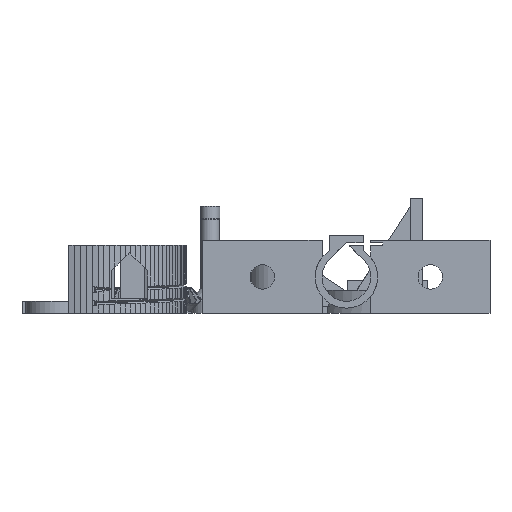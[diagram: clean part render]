
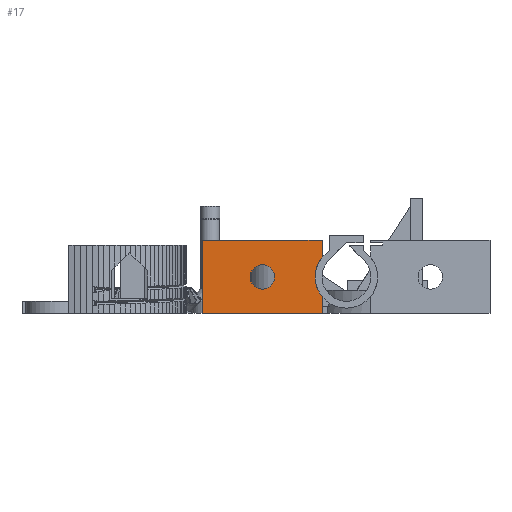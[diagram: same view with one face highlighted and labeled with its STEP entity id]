
A CAD part, left-side view. The second image highlights one B-rep face of the part: STEP entity #17.
In plain terms, the highlighted planar face has unit normal (-1, 0, 0).
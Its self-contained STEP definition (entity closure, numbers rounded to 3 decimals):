
#17 = ADVANCED_FACE('',(#18,#198),#32,.T.);
#18 = FACE_BOUND('',#19,.T.);
#19 = EDGE_LOOP('',(#20,#55,#83,#116,#144,#172));
#20 = ORIENTED_EDGE('',*,*,#21,.F.);
#21 = EDGE_CURVE('',#22,#24,#26,.T.);
#22 = VERTEX_POINT('',#23);
#23 = CARTESIAN_POINT('',(44.,82.,0.));
#24 = VERTEX_POINT('',#25);
#25 = CARTESIAN_POINT('',(44.,131.,0.));
#26 = SURFACE_CURVE('',#27,(#31,#43),.PCURVE_S1.);
#27 = LINE('',#28,#29);
#28 = CARTESIAN_POINT('',(44.,106.5,0.));
#29 = VECTOR('',#30,1.);
#30 = DIRECTION('',(0.,1.,0.));
#31 = PCURVE('',#32,#37);
#32 = PLANE('',#33);
#33 = AXIS2_PLACEMENT_3D('',#34,#35,#36);
#34 = CARTESIAN_POINT('',(44.,82.,0.));
#35 = DIRECTION('',(-1.,0.,0.));
#36 = DIRECTION('',(0.,1.,0.));
#37 = DEFINITIONAL_REPRESENTATION('',(#38),#42);
#38 = LINE('',#39,#40);
#39 = CARTESIAN_POINT('',(24.5,0.));
#40 = VECTOR('',#41,1.);
#41 = DIRECTION('',(1.,0.));
#42 = ( GEOMETRIC_REPRESENTATION_CONTEXT(2) 
PARAMETRIC_REPRESENTATION_CONTEXT() REPRESENTATION_CONTEXT('2D SPACE',''
  ) );
#43 = PCURVE('',#44,#49);
#44 = PLANE('',#45);
#45 = AXIS2_PLACEMENT_3D('',#46,#47,#48);
#46 = CARTESIAN_POINT('',(57.,106.5,0.));
#47 = DIRECTION('',(0.,0.,1.));
#48 = DIRECTION('',(1.,0.,0.));
#49 = DEFINITIONAL_REPRESENTATION('',(#50),#54);
#50 = LINE('',#51,#52);
#51 = CARTESIAN_POINT('',(-13.,0.));
#52 = VECTOR('',#53,1.);
#53 = DIRECTION('',(0.,1.));
#54 = ( GEOMETRIC_REPRESENTATION_CONTEXT(2) 
PARAMETRIC_REPRESENTATION_CONTEXT() REPRESENTATION_CONTEXT('2D SPACE',''
  ) );
#55 = ORIENTED_EDGE('',*,*,#56,.T.);
#56 = EDGE_CURVE('',#22,#57,#59,.T.);
#57 = VERTEX_POINT('',#58);
#58 = CARTESIAN_POINT('',(44.,82.,7.01));
#59 = SURFACE_CURVE('',#60,(#64,#71),.PCURVE_S1.);
#60 = LINE('',#61,#62);
#61 = CARTESIAN_POINT('',(44.,82.,0.));
#62 = VECTOR('',#63,1.);
#63 = DIRECTION('',(0.,0.,1.));
#64 = PCURVE('',#32,#65);
#65 = DEFINITIONAL_REPRESENTATION('',(#66),#70);
#66 = LINE('',#67,#68);
#67 = CARTESIAN_POINT('',(0.,0.));
#68 = VECTOR('',#69,1.);
#69 = DIRECTION('',(0.,-1.));
#70 = ( GEOMETRIC_REPRESENTATION_CONTEXT(2) 
PARAMETRIC_REPRESENTATION_CONTEXT() REPRESENTATION_CONTEXT('2D SPACE',''
  ) );
#71 = PCURVE('',#72,#77);
#72 = PLANE('',#73);
#73 = AXIS2_PLACEMENT_3D('',#74,#75,#76);
#74 = CARTESIAN_POINT('',(44.,82.,0.));
#75 = DIRECTION('',(0.,1.,0.));
#76 = DIRECTION('',(1.,0.,0.));
#77 = DEFINITIONAL_REPRESENTATION('',(#78),#82);
#78 = LINE('',#79,#80);
#79 = CARTESIAN_POINT('',(0.,0.));
#80 = VECTOR('',#81,1.);
#81 = DIRECTION('',(0.,-1.));
#82 = ( GEOMETRIC_REPRESENTATION_CONTEXT(2) 
PARAMETRIC_REPRESENTATION_CONTEXT() REPRESENTATION_CONTEXT('2D SPACE',''
  ) );
#83 = ORIENTED_EDGE('',*,*,#84,.T.);
#84 = EDGE_CURVE('',#57,#85,#87,.T.);
#85 = VERTEX_POINT('',#86);
#86 = CARTESIAN_POINT('',(44.,82.,22.99));
#87 = SURFACE_CURVE('',#88,(#93,#104),.PCURVE_S1.);
#88 = CIRCLE('',#89,12.8);
#89 = AXIS2_PLACEMENT_3D('',#90,#91,#92);
#90 = CARTESIAN_POINT('',(44.,72.,15.));
#91 = DIRECTION('',(1.,0.,0.));
#92 = DIRECTION('',(0.,-0.547,0.837));
#93 = PCURVE('',#32,#94);
#94 = DEFINITIONAL_REPRESENTATION('',(#95),#103);
#95 = ( BOUNDED_CURVE() B_SPLINE_CURVE(2,(#96,#97,#98,#99,#100,#101,#102
),.UNSPECIFIED.,.T.,.F.) B_SPLINE_CURVE_WITH_KNOTS((1,2,2,2,2,1),(
    -2.094,0.,2.094,4.189,6.283,
8.378),.UNSPECIFIED.) CURVE() GEOMETRIC_REPRESENTATION_ITEM() 
RATIONAL_B_SPLINE_CURVE((1.,0.5,1.,0.5,1.,0.5,1.)) REPRESENTATION_ITEM(
  '') );
#96 = CARTESIAN_POINT('',(-17.,-25.716));
#97 = CARTESIAN_POINT('',(-35.561,-13.592));
#98 = CARTESIAN_POINT('',(-15.781,-3.58));
#99 = CARTESIAN_POINT('',(4.,6.433));
#100 = CARTESIAN_POINT('',(2.781,-15.704));
#101 = CARTESIAN_POINT('',(1.561,-37.841));
#102 = CARTESIAN_POINT('',(-17.,-25.716));
#103 = ( GEOMETRIC_REPRESENTATION_CONTEXT(2) 
PARAMETRIC_REPRESENTATION_CONTEXT() REPRESENTATION_CONTEXT('2D SPACE',''
  ) );
#104 = PCURVE('',#105,#110);
#105 = CYLINDRICAL_SURFACE('',#106,12.8);
#106 = AXIS2_PLACEMENT_3D('',#107,#108,#109);
#107 = CARTESIAN_POINT('',(57.,72.,15.));
#108 = DIRECTION('',(1.,0.,0.));
#109 = DIRECTION('',(0.,-0.547,0.837));
#110 = DEFINITIONAL_REPRESENTATION('',(#111),#115);
#111 = LINE('',#112,#113);
#112 = CARTESIAN_POINT('',(0.,-13.));
#113 = VECTOR('',#114,1.);
#114 = DIRECTION('',(1.,0.));
#115 = ( GEOMETRIC_REPRESENTATION_CONTEXT(2) 
PARAMETRIC_REPRESENTATION_CONTEXT() REPRESENTATION_CONTEXT('2D SPACE',''
  ) );
#116 = ORIENTED_EDGE('',*,*,#117,.T.);
#117 = EDGE_CURVE('',#85,#118,#120,.T.);
#118 = VERTEX_POINT('',#119);
#119 = CARTESIAN_POINT('',(44.,82.,30.));
#120 = SURFACE_CURVE('',#121,(#125,#132),.PCURVE_S1.);
#121 = LINE('',#122,#123);
#122 = CARTESIAN_POINT('',(44.,82.,0.));
#123 = VECTOR('',#124,1.);
#124 = DIRECTION('',(0.,0.,1.));
#125 = PCURVE('',#32,#126);
#126 = DEFINITIONAL_REPRESENTATION('',(#127),#131);
#127 = LINE('',#128,#129);
#128 = CARTESIAN_POINT('',(0.,0.));
#129 = VECTOR('',#130,1.);
#130 = DIRECTION('',(0.,-1.));
#131 = ( GEOMETRIC_REPRESENTATION_CONTEXT(2) 
PARAMETRIC_REPRESENTATION_CONTEXT() REPRESENTATION_CONTEXT('2D SPACE',''
  ) );
#132 = PCURVE('',#133,#138);
#133 = PLANE('',#134);
#134 = AXIS2_PLACEMENT_3D('',#135,#136,#137);
#135 = CARTESIAN_POINT('',(44.,82.,0.));
#136 = DIRECTION('',(0.,1.,0.));
#137 = DIRECTION('',(1.,0.,0.));
#138 = DEFINITIONAL_REPRESENTATION('',(#139),#143);
#139 = LINE('',#140,#141);
#140 = CARTESIAN_POINT('',(0.,0.));
#141 = VECTOR('',#142,1.);
#142 = DIRECTION('',(0.,-1.));
#143 = ( GEOMETRIC_REPRESENTATION_CONTEXT(2) 
PARAMETRIC_REPRESENTATION_CONTEXT() REPRESENTATION_CONTEXT('2D SPACE',''
  ) );
#144 = ORIENTED_EDGE('',*,*,#145,.T.);
#145 = EDGE_CURVE('',#118,#146,#148,.T.);
#146 = VERTEX_POINT('',#147);
#147 = CARTESIAN_POINT('',(44.,131.,30.));
#148 = SURFACE_CURVE('',#149,(#153,#160),.PCURVE_S1.);
#149 = LINE('',#150,#151);
#150 = CARTESIAN_POINT('',(44.,106.5,30.));
#151 = VECTOR('',#152,1.);
#152 = DIRECTION('',(0.,1.,0.));
#153 = PCURVE('',#32,#154);
#154 = DEFINITIONAL_REPRESENTATION('',(#155),#159);
#155 = LINE('',#156,#157);
#156 = CARTESIAN_POINT('',(24.5,-30.));
#157 = VECTOR('',#158,1.);
#158 = DIRECTION('',(1.,0.));
#159 = ( GEOMETRIC_REPRESENTATION_CONTEXT(2) 
PARAMETRIC_REPRESENTATION_CONTEXT() REPRESENTATION_CONTEXT('2D SPACE',''
  ) );
#160 = PCURVE('',#161,#166);
#161 = PLANE('',#162);
#162 = AXIS2_PLACEMENT_3D('',#163,#164,#165);
#163 = CARTESIAN_POINT('',(57.,106.5,30.));
#164 = DIRECTION('',(0.,0.,1.));
#165 = DIRECTION('',(1.,0.,0.));
#166 = DEFINITIONAL_REPRESENTATION('',(#167),#171);
#167 = LINE('',#168,#169);
#168 = CARTESIAN_POINT('',(-13.,0.));
#169 = VECTOR('',#170,1.);
#170 = DIRECTION('',(0.,1.));
#171 = ( GEOMETRIC_REPRESENTATION_CONTEXT(2) 
PARAMETRIC_REPRESENTATION_CONTEXT() REPRESENTATION_CONTEXT('2D SPACE',''
  ) );
#172 = ORIENTED_EDGE('',*,*,#173,.F.);
#173 = EDGE_CURVE('',#24,#146,#174,.T.);
#174 = SURFACE_CURVE('',#175,(#179,#186),.PCURVE_S1.);
#175 = LINE('',#176,#177);
#176 = CARTESIAN_POINT('',(44.,131.,0.));
#177 = VECTOR('',#178,1.);
#178 = DIRECTION('',(0.,0.,1.));
#179 = PCURVE('',#32,#180);
#180 = DEFINITIONAL_REPRESENTATION('',(#181),#185);
#181 = LINE('',#182,#183);
#182 = CARTESIAN_POINT('',(49.,0.));
#183 = VECTOR('',#184,1.);
#184 = DIRECTION('',(0.,-1.));
#185 = ( GEOMETRIC_REPRESENTATION_CONTEXT(2) 
PARAMETRIC_REPRESENTATION_CONTEXT() REPRESENTATION_CONTEXT('2D SPACE',''
  ) );
#186 = PCURVE('',#187,#192);
#187 = PLANE('',#188);
#188 = AXIS2_PLACEMENT_3D('',#189,#190,#191);
#189 = CARTESIAN_POINT('',(44.,131.,0.));
#190 = DIRECTION('',(0.,1.,0.));
#191 = DIRECTION('',(1.,0.,0.));
#192 = DEFINITIONAL_REPRESENTATION('',(#193),#197);
#193 = LINE('',#194,#195);
#194 = CARTESIAN_POINT('',(0.,0.));
#195 = VECTOR('',#196,1.);
#196 = DIRECTION('',(0.,-1.));
#197 = ( GEOMETRIC_REPRESENTATION_CONTEXT(2) 
PARAMETRIC_REPRESENTATION_CONTEXT() REPRESENTATION_CONTEXT('2D SPACE',''
  ) );
#198 = FACE_BOUND('',#199,.T.);
#199 = EDGE_LOOP('',(#200));
#200 = ORIENTED_EDGE('',*,*,#201,.T.);
#201 = EDGE_CURVE('',#202,#202,#204,.T.);
#202 = VERTEX_POINT('',#203);
#203 = CARTESIAN_POINT('',(44.,111.5,15.));
#204 = SURFACE_CURVE('',#205,(#210,#221),.PCURVE_S1.);
#205 = CIRCLE('',#206,5.);
#206 = AXIS2_PLACEMENT_3D('',#207,#208,#209);
#207 = CARTESIAN_POINT('',(44.,106.5,15.));
#208 = DIRECTION('',(1.,0.,0.));
#209 = DIRECTION('',(0.,1.,0.));
#210 = PCURVE('',#32,#211);
#211 = DEFINITIONAL_REPRESENTATION('',(#212),#220);
#212 = ( BOUNDED_CURVE() B_SPLINE_CURVE(2,(#213,#214,#215,#216,#217,#218
,#219),.UNSPECIFIED.,.T.,.F.) B_SPLINE_CURVE_WITH_KNOTS((1,2,2,2,2,1),(
    -2.094,0.,2.094,4.189,6.283,
8.378),.UNSPECIFIED.) CURVE() GEOMETRIC_REPRESENTATION_ITEM() 
RATIONAL_B_SPLINE_CURVE((1.,0.5,1.,0.5,1.,0.5,1.)) REPRESENTATION_ITEM(
  '') );
#213 = CARTESIAN_POINT('',(29.5,-15.));
#214 = CARTESIAN_POINT('',(29.5,-23.66));
#215 = CARTESIAN_POINT('',(22.,-19.33));
#216 = CARTESIAN_POINT('',(14.5,-15.));
#217 = CARTESIAN_POINT('',(22.,-10.67));
#218 = CARTESIAN_POINT('',(29.5,-6.34));
#219 = CARTESIAN_POINT('',(29.5,-15.));
#220 = ( GEOMETRIC_REPRESENTATION_CONTEXT(2) 
PARAMETRIC_REPRESENTATION_CONTEXT() REPRESENTATION_CONTEXT('2D SPACE',''
  ) );
#221 = PCURVE('',#222,#227);
#222 = CYLINDRICAL_SURFACE('',#223,5.);
#223 = AXIS2_PLACEMENT_3D('',#224,#225,#226);
#224 = CARTESIAN_POINT('',(57.,106.5,15.));
#225 = DIRECTION('',(1.,0.,0.));
#226 = DIRECTION('',(0.,1.,0.));
#227 = DEFINITIONAL_REPRESENTATION('',(#228),#232);
#228 = LINE('',#229,#230);
#229 = CARTESIAN_POINT('',(0.,-13.));
#230 = VECTOR('',#231,1.);
#231 = DIRECTION('',(1.,0.));
#232 = ( GEOMETRIC_REPRESENTATION_CONTEXT(2) 
PARAMETRIC_REPRESENTATION_CONTEXT() REPRESENTATION_CONTEXT('2D SPACE',''
  ) );
